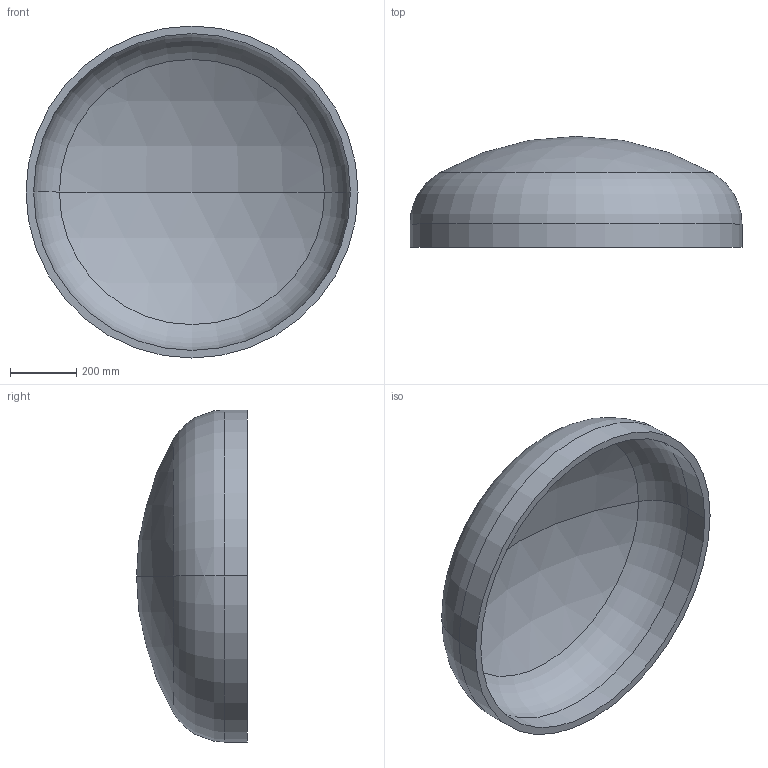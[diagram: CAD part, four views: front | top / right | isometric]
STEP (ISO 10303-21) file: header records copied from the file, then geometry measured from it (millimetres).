
FILE_DESCRIPTION (( 'STEP AP203' ), '1' );
FILE_NAME ('DIN 28013 Korbbogenform_-_Boden DIN 28013 - 1000 x 70 - I - s=23.step', '2016-07-01T08:44:49', ( '' ), ( '' ), 'SwSTEP 2.0', 'SolidWorks 2013', '' );
FILE_SCHEMA (( 'CONFIG_CONTROL_DESIGN' ));
Length unit declared in the file: millimetre
Products named in the file (1): DIN 28013 Korbbogenform_-_Boden DIN 28013 - 1000 x 70 - I - s=23
Bounding box: 1000 x 334.13 x 1000 mm (x, y, z)
Volume: 29247044.3 mm3; surface area: 2614923.1 mm2
Topology: 1 solids, 1 shells, 13 faces, 24 edges, 14 vertices
Faces by surface type: torus 4, cylinder 4, sphere 4, plane 1
Entity records: 407 total; most frequent: DIRECTION 72, CARTESIAN_POINT 52, ORIENTED_EDGE 48, AXIS2_PLACEMENT_3D 34, EDGE_CURVE 24, CIRCLE 20, VERTEX_POINT 14, EDGE_LOOP 14
